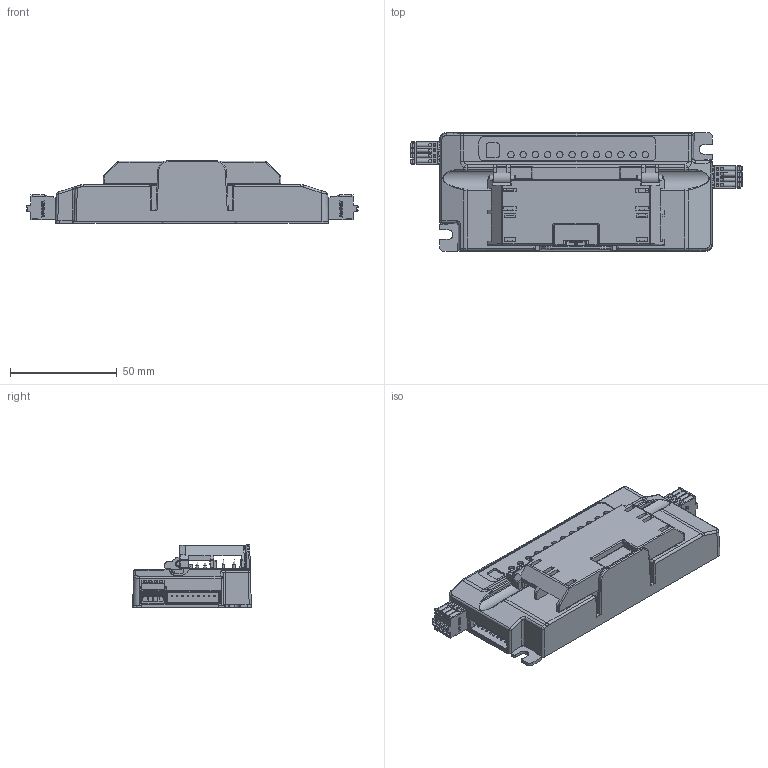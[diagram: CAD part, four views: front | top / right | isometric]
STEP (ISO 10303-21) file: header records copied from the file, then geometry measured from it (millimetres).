
FILE_DESCRIPTION(/* description */ (''),/* implementation_level */ '2;1');
FILE_NAME(/* name */ '外驱BD-4.2.stp',/* time_stamp */ '2026-04-28T09:45:39+08:00',/* author */ (''),/* organization */ (''),/* preprocessor_version */ 'ST-DEVELOPER v19.4',/* originating_system */ 'SIEMENS PLM Software NX2212.7001',/* authorisation */ '');
FILE_SCHEMA (('AUTOMOTIVE_DESIGN { 1 0 10303 214 3 1 1 1 }'));
Products named in the file (1): 外驱BD-1.5_x_t_fang27DCC2756k6r
Bounding box: 155.72 x 55.78 x 29.5 mm (x, y, z)
Volume: 128962.3 mm3; surface area: 43762.6 mm2
Topology: 2 solids, 22 shells, 3272 faces, 9066 edges, 5930 vertices
Faces by surface type: plane 2442, cylinder 630, extrusion 76, bspline 44, sphere 32, cone 26, torus 22
Full cylindrical faces by diameter (mm): 1.2 x4, 1.25 x4, 2 x4, 2.95 x2, 3 x12
Entity records: 127578 total; most frequent: CARTESIAN_POINT 23460, ORIENTED_EDGE 17968, DIRECTION 16410, EDGE_CURVE 8984, VECTOR 7310, LINE 7234, VERTEX_POINT 5917, AXIS2_PLACEMENT_3D 4550
